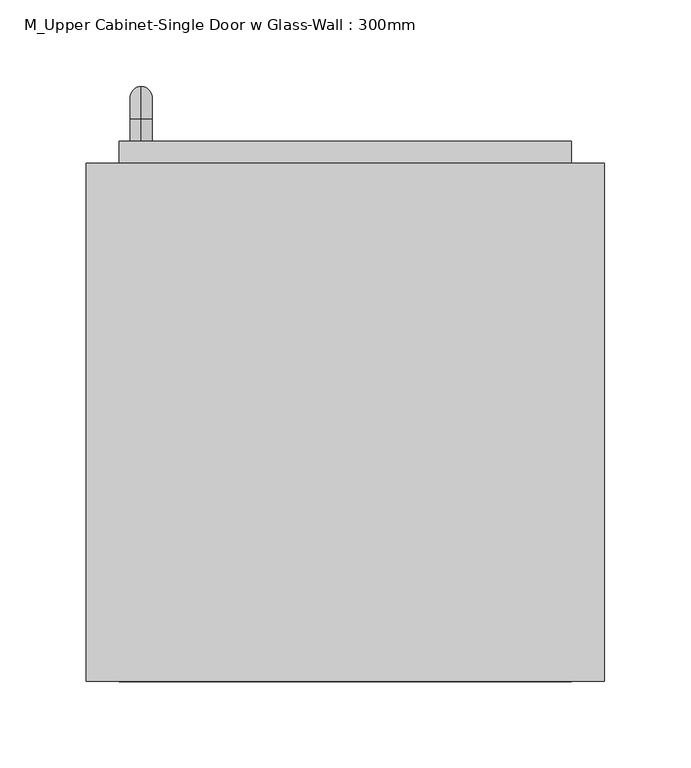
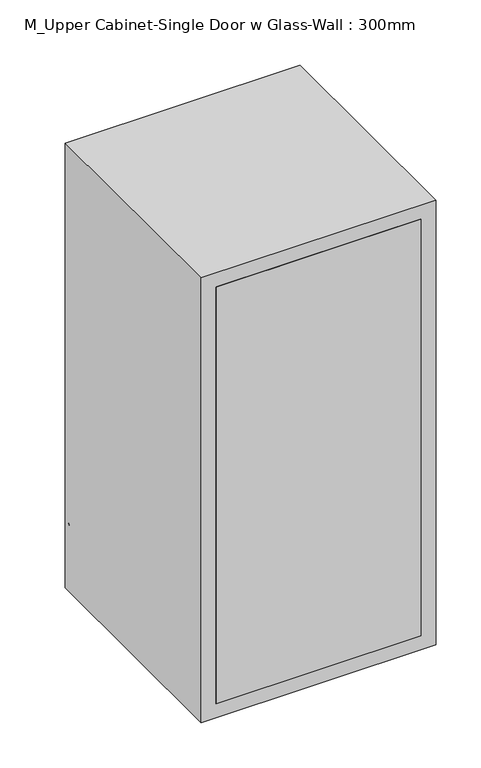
"""IFC4 building model written with IfcOpenShell, lengths in millimetres: furniture geometry, M_Upper Cabinet-Single Door w Glass-Wall : 300mm."""

from ifc_helpers import new_model, si_unit, point, frame, origin, place, context, project, spatial, polyline, circle_curve, ellipse_curve, trimmed, outline, extrude, source, transform, mapped, element, save
from ifc_brep_helpers import plane_surface, cylinder_surface, revolved_surface, advanced_brep


def m_upper_cabinet_single_door_w_glass_wall_300mm_c5a61024(model_context):
    return source(origin(), model_context, "Body", "SolidModel", [
        advanced_brep(
        [(-88.4788372, 412.7, 1546.05), (-88.4788372, 412.7, 1558.75), (-88.4788372, 425.4, 1546.05), (-88.4788372, 425.4, 1558.75), (-88.4788372, 444.45, 1539.7), (-88.4788372, 431.75, 1539.7), (-88.4788372, 431.75, 1463.5), (-88.4788372, 444.45, 1463.5), (-88.4788372, 425.4, 1444.45), (-88.4788372, 425.4, 1457.15), (-88.4788372, 412.7, 1457.15), (-88.4788372, 412.7, 1444.45)],
        [
            (0, 1, circle_curve(frame((-88.4788372, 412.7, 1552.4), z_axis=(0.0, -1.0, 0.0), x_axis=(0.0, 0.0, 1.0)), 6.35)),
            (1, 0, circle_curve(frame((-88.4788372, 412.7, 1552.4), z_axis=(0.0, -1.0, 0.0), x_axis=(0.0, 0.0, 1.0)), 6.35)),
            (0, 2),
            (2, 3, circle_curve(frame((-88.4788372, 425.4, 1552.4), z_axis=(0.0, -1.0, 0.0), x_axis=(0.0, 0.0, 1.0)), 6.35)),
            (3, 1),
            (3, 2, circle_curve(frame((-88.4788372, 425.4, 1552.4), z_axis=(0.0, -1.0, 0.0), x_axis=(0.0, 0.0, 1.0)), 6.35)),
            (4, 3, circle_curve(frame((-88.4788372, 425.4, 1539.7), z_axis=(1.0, 0.0, 0.0), x_axis=(0.0, 0.0, 1.0)), 19.05)),
            (2, 5, circle_curve(frame((-88.4788372, 425.4, 1539.7), z_axis=(-1.0, 0.0, 0.0), x_axis=(0.0, 0.0, 1.0)), 6.35)),
            (5, 4, circle_curve(frame((-88.4788372, 438.1, 1539.7), z_axis=(0.0, 0.0, 1.0), x_axis=(0.0, 1.0, 0.0)), 6.35)),
            (4, 5, circle_curve(frame((-88.4788372, 438.1, 1539.7), z_axis=(0.0, 0.0, 1.0), x_axis=(0.0, 1.0, 0.0)), 6.35)),
            (5, 6),
            (6, 7, circle_curve(frame((-88.4788372, 438.1, 1463.5), z_axis=(0.0, 0.0, 1.0), x_axis=(0.0, 1.0, 0.0)), 6.35)),
            (7, 4),
            (7, 6, circle_curve(frame((-88.4788372, 438.1, 1463.5), z_axis=(0.0, 0.0, 1.0), x_axis=(0.0, 1.0, 0.0)), 6.35)),
            (8, 7, circle_curve(frame((-88.4788372, 425.4, 1463.5), z_axis=(1.0, 0.0, 0.0), x_axis=(0.0, 1.0, 0.0)), 19.05)),
            (6, 9, circle_curve(frame((-88.4788372, 425.4, 1463.5), z_axis=(-1.0, 0.0, 0.0), x_axis=(0.0, 1.0, 0.0)), 6.35)),
            (9, 8, circle_curve(frame((-88.4788372, 425.4, 1450.8), z_axis=(0.0, 1.0, 0.0), x_axis=(0.0, 0.0, -1.0)), 6.35)),
            (8, 9, circle_curve(frame((-88.4788372, 425.4, 1450.8), z_axis=(0.0, 1.0, 0.0), x_axis=(0.0, 0.0, -1.0)), 6.35)),
            (10, 11, circle_curve(frame((-88.4788372, 412.7, 1450.8), z_axis=(0.0, -1.0, 0.0), x_axis=(0.0, 0.0, -1.0)), 6.35)),
            (11, 10, circle_curve(frame((-88.4788372, 412.7, 1450.8), z_axis=(0.0, -1.0, 0.0), x_axis=(0.0, 0.0, -1.0)), 6.35)),
            (9, 10),
            (11, 8),
        ],
        [
            plane_surface(frame((-94.8288372, 412.7, 1552.4), z_axis=(0.0, -1.0, 0.0), x_axis=(0.0, 0.0, 1.0))),
            cylinder_surface(frame((-88.4788372, 412.7, 1552.4), z_axis=(0.0, -1.0, 0.0), x_axis=(0.0, 0.0, 1.0)), 6.35),
            revolved_surface(trimmed(ellipse_curve(frame((-88.4788372, 425.4, 1552.4), z_axis=(0.0, -1.0, 0.0), x_axis=(0.0, 0.0, 1.0)), 6.35, 6.35), [point((-88.4788372, 425.4, 1546.05))], [point((-88.4788372, 425.4, 1558.75))], True, "CARTESIAN"), (-88.4788372, 425.4, 1539.7), (-1.0, 0.0, 0.0)),
            revolved_surface(trimmed(ellipse_curve(frame((-88.4788372, 425.4, 1552.4), z_axis=(0.0, -1.0, 0.0), x_axis=(0.0, 0.0, 1.0)), 6.35, 6.35), [point((-88.4788372, 425.4, 1558.75))], [point((-88.4788372, 425.4, 1546.05))], True, "CARTESIAN"), (-88.4788372, 425.4, 1539.7), (-1.0, 0.0, 0.0)),
            cylinder_surface(frame((-88.4788372, 438.1, 1539.7), z_axis=(0.0, 0.0, 1.0), x_axis=(0.0, 1.0, 0.0)), 6.35),
            revolved_surface(trimmed(ellipse_curve(frame((-88.4788372, 438.1, 1463.5), z_axis=(0.0, 0.0, 1.0), x_axis=(0.0, 1.0, 0.0)), 6.35, 6.35), [point((-88.4788372, 431.75, 1463.5))], [point((-88.4788372, 444.45, 1463.5))], True, "CARTESIAN"), (-88.4788372, 425.4, 1463.5), (-1.0, 0.0, 0.0)),
            revolved_surface(trimmed(ellipse_curve(frame((-88.4788372, 438.1, 1463.5), z_axis=(0.0, 0.0, 1.0), x_axis=(0.0, 1.0, 0.0)), 6.35, 6.35), [point((-88.4788372, 444.45, 1463.5))], [point((-88.4788372, 431.75, 1463.5))], True, "CARTESIAN"), (-88.4788372, 425.4, 1463.5), (-1.0, 0.0, 0.0)),
            plane_surface(frame((-94.8288372, 412.7, 1450.8), z_axis=(0.0, -1.0, 0.0), x_axis=(0.0, 0.0, -1.0))),
            cylinder_surface(frame((-88.4788372, 425.4, 1450.8), z_axis=(0.0, 1.0, 0.0), x_axis=(0.0, 0.0, -1.0)), 6.35),
        ],
        [
            (0, [[1, 2]]),
            (1, [[-1, 3, 4, 5]]),
            (1, [[-2, -5, 6, -3]]),
            (2, [[7, -4, 8, 9]]),
            (3, [[-8, -6, -7, 10]]),
            (4, [[-9, 11, 12, 13]]),
            (4, [[-10, -13, 14, -11]]),
            (5, [[15, -12, 16, 17]]),
            (6, [[-16, -14, -15, 18]]),
            (7, [[19, 20]]),
            (8, [[-17, 21, -20, 22]]),
            (8, [[-18, -22, -19, -21]]),
        ],
    ),
        extrude(outline(polyline([(-69.4288372, 393.65), (128.9711628, 393.65), (128.9711628, 387.3), (-69.4288372, 387.3), (-69.4288372, 393.65)])), frame((0.0, 0.0, 1450.8), z_axis=(0.0, 0.0, 1.0), x_axis=(1.0, 0.0, 0.0)), (0.0, 0.0, 1.0), 498.4),
        extrude(outline(polyline([(1980.95, -101.1788372), (1419.05, -101.1788372), (1419.05, 160.7211628), (1980.95, 160.7211628), (1980.95, -101.1788372)]), holes=[polyline([(1450.8, -69.4288372), (1949.2, -69.4288372), (1949.2, 128.9711628), (1450.8, 128.9711628), (1450.8, -69.4288372)])]), frame((0.0, 380.95, 0.0), z_axis=(0.0, 1.0, 0.0), x_axis=(0.0, 0.0, 1.0)), (0.0, 0.0, 1.0), 31.75),
        extrude(outline(polyline([(160.7211628, 100.0), (-101.1788372, 100.0), (-101.1788372, 119.05), (160.7211628, 119.05), (160.7211628, 100.0)])), frame((0.0, 0.0, 1419.05), z_axis=(0.0, 0.0, 1.0), x_axis=(1.0, 0.0, 0.0)), (0.0, 0.0, 1.0), 561.9),
        extrude(outline(polyline([(2000.0, -120.2288372), (1400.0, -120.2288372), (1400.0, 179.7711628), (2000.0, 179.7711628), (2000.0, -120.2288372)]), holes=[polyline([(1980.95, -101.1788372), (1980.95, 160.7211628), (1419.05, 160.7211628), (1419.05, -101.1788372), (1980.95, -101.1788372)])]), frame((0.0, 100.0, 0.0), z_axis=(0.0, 1.0, 0.0), x_axis=(0.0, 0.0, 1.0)), (0.0, 0.0, 1.0), 300.0),
    ])


if __name__ == "__main__":
    model = new_model("IFC4")
    model_context = context("Model", 3, world=origin())
    ifc_project = project(units=[si_unit("LENGTHUNIT", "METRE", prefix="MILLI")], contexts=[model_context])
    site = spatial("IfcSite", under=ifc_project)
    building = spatial("IfcBuilding", under=site)
    placement = place(None, origin())
    m_upper_cabinet_single_door_w_glass_wall_300mm_shape = m_upper_cabinet_single_door_w_glass_wall_300mm_c5a61024(model_context)
    element("IfcFurniture", 1, ObjectType="M_Upper Cabinet-Single Door w Glass-Wall : 300mm", at=placement, inside=building, context=model_context, shape_type="MappedRepresentation", body=[
        mapped(m_upper_cabinet_single_door_w_glass_wall_300mm_shape, transform((0.0, 0.0, 0.0), x_axis=(1.0, 0.0, 0.0), y_axis=(0.0, 1.0, 0.0), z_axis=(0.0, 0.0, 1.0))),
    ])
    save(model, "model.ifc")
